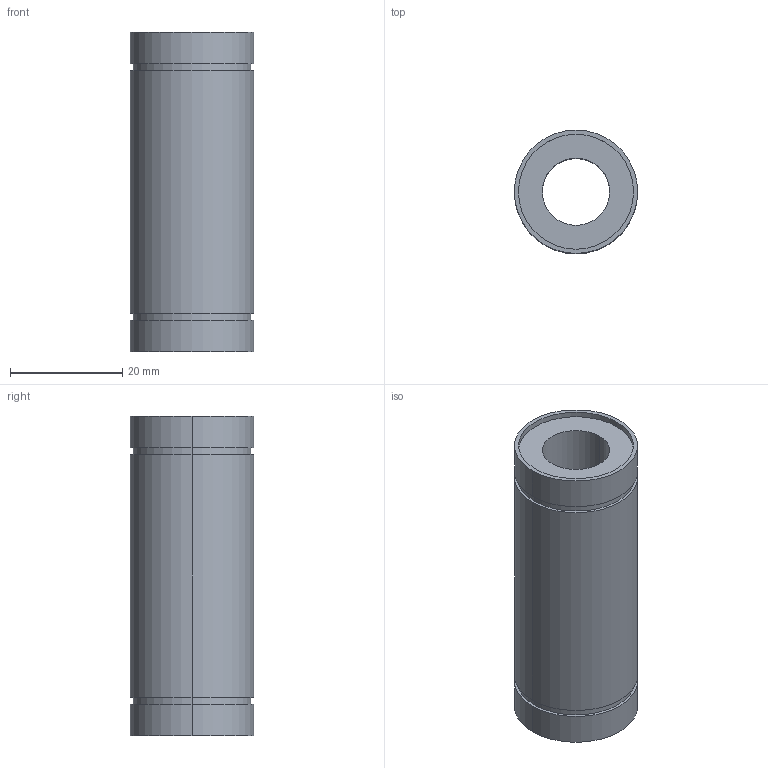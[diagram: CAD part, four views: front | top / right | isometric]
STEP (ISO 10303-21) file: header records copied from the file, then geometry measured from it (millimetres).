
FILE_DESCRIPTION((''),'2;1');
FILE_NAME('C:\Documents and Settings\ｿﾀﾀ蠑ｷ1\ｹﾙﾅﾁ ﾈｭｸ饅\ｺﾎﾇｰﾆﾄﾀﾏ\ﾁｦﾇｰ\LME__LUU\LME12LUU.stp','2005-06-14T16:54:58',('ｿﾀﾀ蠑ｷ1'),(''),'Autodesk Inventor 9','Autodesk Inventor 9','');
FILE_SCHEMA(('AUTOMOTIVE_DESIGN { 1 0 10303 214 1 1 1 1 }'));
Length unit declared in the file: millimetre
Products named in the file (1): LME__
Bounding box: 22 x 22 x 57 mm (x, y, z)
Volume: 14699.3 mm3; surface area: 6802.8 mm2
Topology: 1 solids, 1 shells, 24 faces, 48 edges, 32 vertices
Faces by surface type: cylinder 16, plane 8
Entity records: 671 total; most frequent: DIRECTION 130, CARTESIAN_POINT 105, ORIENTED_EDGE 96, AXIS2_PLACEMENT_3D 57, EDGE_CURVE 48, VERTEX_POINT 32, CIRCLE 32, EDGE_LOOP 32
